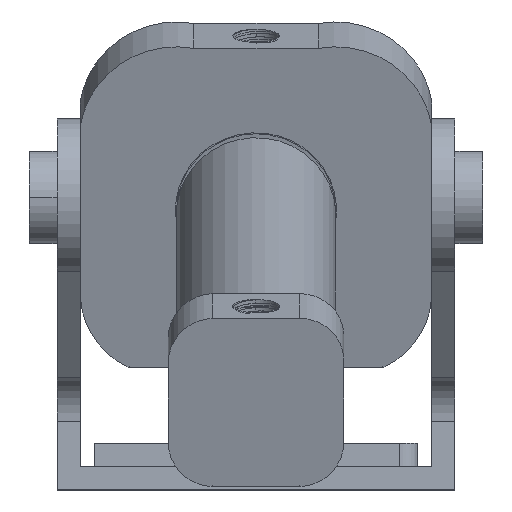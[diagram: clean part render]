
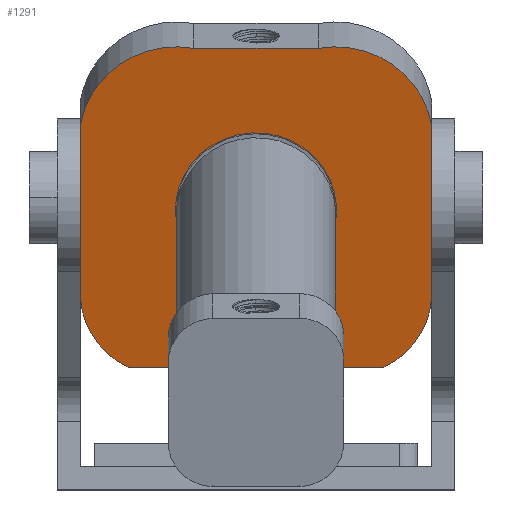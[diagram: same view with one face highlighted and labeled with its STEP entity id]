
A CAD part, top view. The second image highlights one B-rep face of the part: STEP entity #1291.
In plain terms, the highlighted planar face has unit normal (0, -0.284, 0.959) as drawn and (0, 0, -1) by its records, which use the part's own axes.
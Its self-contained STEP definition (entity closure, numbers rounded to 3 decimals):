
#301 = AXIS2_PLACEMENT_3D ( 'NONE', #17914, #5227, #20067 ) ;
#1162 = VERTEX_POINT ( 'NONE', #19834 ) ;
#1291 = ADVANCED_FACE ( 'NONE', ( #7631, #2696 ), #9213, .T. ) ;
#1774 = CARTESIAN_POINT ( 'NONE',  ( -19., 27.605, 0. ) ) ;
#2081 = AXIS2_PLACEMENT_3D ( 'NONE', #24767, #4944, #26863 ) ;
#2189 = DIRECTION ( 'NONE',  ( 0., -1., 0. ) ) ;
#2212 = ORIENTED_EDGE ( 'NONE', *, *, #27012, .T. ) ;
#2384 = VECTOR ( 'NONE', #2189, 1000. ) ;
#2439 = VECTOR ( 'NONE', #21579, 1000. ) ;
#2696 = FACE_OUTER_BOUND ( 'NONE', #6624, .T. ) ;
#3018 = VERTEX_POINT ( 'NONE', #5342 ) ;
#3376 = CIRCLE ( 'NONE', #17339, 9.312 ) ;
#3867 = EDGE_CURVE ( 'NONE', #16664, #10515, #27263, .T. ) ;
#4799 = DIRECTION ( 'NONE',  ( 0., 0., -1. ) ) ;
#4944 = DIRECTION ( 'NONE',  ( 0., 0., -1. ) ) ;
#5046 = EDGE_CURVE ( 'NONE', #18315, #16664, #3376, .T. ) ;
#5135 = VERTEX_POINT ( 'NONE', #10057 ) ;
#5227 = DIRECTION ( 'NONE',  ( 0., 0., -1. ) ) ;
#5342 = CARTESIAN_POINT ( 'NONE',  ( 13.718, 0.45, 0. ) ) ;
#5488 = VECTOR ( 'NONE', #21640, 1000. ) ;
#6335 = AXIS2_PLACEMENT_3D ( 'NONE', #11228, #26045, #13331 ) ;
#6624 = EDGE_LOOP ( 'NONE', ( #24869, #6766, #10191, #22974, #9162, #25190, #8675, #2212 ) ) ;
#6724 = EDGE_CURVE ( 'NONE', #10515, #1162, #13152, .T. ) ;
#6766 = ORIENTED_EDGE ( 'NONE', *, *, #14225, .T. ) ;
#6796 = CARTESIAN_POINT ( 'NONE',  ( 19., 0.45, 0. ) ) ;
#7194 = CARTESIAN_POINT ( 'NONE',  ( 19., 27.605, 0. ) ) ;
#7631 = FACE_BOUND ( 'NONE', #10316, .T. ) ;
#7994 = LINE ( 'NONE', #21215, #2384 ) ;
#8372 = CARTESIAN_POINT ( 'NONE',  ( 0., 18.225, 0. ) ) ;
#8660 = CIRCLE ( 'NONE', #8849, 8.59 ) ;
#8675 = ORIENTED_EDGE ( 'NONE', *, *, #12972, .T. ) ;
#8849 = AXIS2_PLACEMENT_3D ( 'NONE', #8372, #23215, #10508 ) ;
#8994 = ORIENTED_EDGE ( 'NONE', *, *, #25097, .T. ) ;
#9162 = ORIENTED_EDGE ( 'NONE', *, *, #6724, .T. ) ;
#9213 = PLANE ( 'NONE',  #2081 ) ;
#9365 = DIRECTION ( 'NONE',  ( 0., 0., -1. ) ) ;
#10057 = CARTESIAN_POINT ( 'NONE',  ( 19., 8.845, 0. ) ) ;
#10191 = ORIENTED_EDGE ( 'NONE', *, *, #5046, .T. ) ;
#10316 = EDGE_LOOP ( 'NONE', ( #8994, #16835 ) ) ;
#10508 = DIRECTION ( 'NONE',  ( -1., 0., 0. ) ) ;
#10515 = VERTEX_POINT ( 'NONE', #1774 ) ;
#10676 = CARTESIAN_POINT ( 'NONE',  ( 9.688, 8.845, 0. ) ) ;
#10786 = VERTEX_POINT ( 'NONE', #13161 ) ;
#11046 = VECTOR ( 'NONE', #17391, 1000. ) ;
#11228 = CARTESIAN_POINT ( 'NONE',  ( 0., 18.225, 0. ) ) ;
#11363 = CARTESIAN_POINT ( 'NONE',  ( -19., 18.225, 0. ) ) ;
#11514 = CARTESIAN_POINT ( 'NONE',  ( -19., 8.845, 0. ) ) ;
#12810 = DIRECTION ( 'NONE',  ( -1., 0., 0. ) ) ;
#12972 = EDGE_CURVE ( 'NONE', #13553, #22747, #25760, .T. ) ;
#13152 = CIRCLE ( 'NONE', #21826, 10.536 ) ;
#13161 = CARTESIAN_POINT ( 'NONE',  ( -8.59, 18.225, 0. ) ) ;
#13331 = DIRECTION ( 'NONE',  ( -1., 0., 0. ) ) ;
#13553 = VERTEX_POINT ( 'NONE', #19557 ) ;
#14225 = EDGE_CURVE ( 'NONE', #3018, #18315, #19366, .T. ) ;
#15607 = CIRCLE ( 'NONE', #19046, 9.312 ) ;
#16664 = VERTEX_POINT ( 'NONE', #11514 ) ;
#16743 = LINE ( 'NONE', #19501, #5488 ) ;
#16835 = ORIENTED_EDGE ( 'NONE', *, *, #26968, .T. ) ;
#17339 = AXIS2_PLACEMENT_3D ( 'NONE', #27249, #9365, #26326 ) ;
#17391 = DIRECTION ( 'NONE',  ( 0., 1., 0. ) ) ;
#17510 = CARTESIAN_POINT ( 'NONE',  ( -8.576, 26.077, 0. ) ) ;
#17914 = CARTESIAN_POINT ( 'NONE',  ( 8.576, 26.077, 0. ) ) ;
#18315 = VERTEX_POINT ( 'NONE', #24545 ) ;
#19046 = AXIS2_PLACEMENT_3D ( 'NONE', #10676, #25532, #12810 ) ;
#19210 = EDGE_CURVE ( 'NONE', #5135, #3018, #15607, .T. ) ;
#19366 = LINE ( 'NONE', #6796, #2439 ) ;
#19501 = CARTESIAN_POINT ( 'NONE',  ( 0., 36.45, 0. ) ) ;
#19557 = CARTESIAN_POINT ( 'NONE',  ( 6.73, 36.45, 0. ) ) ;
#19638 = DIRECTION ( 'NONE',  ( -1., 0., 0. ) ) ;
#19759 = CIRCLE ( 'NONE', #6335, 8.59 ) ;
#19834 = CARTESIAN_POINT ( 'NONE',  ( -6.73, 36.45, 0. ) ) ;
#20067 = DIRECTION ( 'NONE',  ( -1., 0., 0. ) ) ;
#21215 = CARTESIAN_POINT ( 'NONE',  ( 19., 18.225, 0. ) ) ;
#21579 = DIRECTION ( 'NONE',  ( -1., 0., 0. ) ) ;
#21640 = DIRECTION ( 'NONE',  ( 1., 0., 0. ) ) ;
#21826 = AXIS2_PLACEMENT_3D ( 'NONE', #17510, #4799, #19638 ) ;
#22747 = VERTEX_POINT ( 'NONE', #7194 ) ;
#22974 = ORIENTED_EDGE ( 'NONE', *, *, #3867, .T. ) ;
#23215 = DIRECTION ( 'NONE',  ( 0., 0., 1. ) ) ;
#24029 = VERTEX_POINT ( 'NONE', #24631 ) ;
#24545 = CARTESIAN_POINT ( 'NONE',  ( -13.718, 0.45, 0. ) ) ;
#24631 = CARTESIAN_POINT ( 'NONE',  ( 8.59, 18.225, 0. ) ) ;
#24767 = CARTESIAN_POINT ( 'NONE',  ( 19., 0., 0. ) ) ;
#24869 = ORIENTED_EDGE ( 'NONE', *, *, #19210, .T. ) ;
#25047 = EDGE_CURVE ( 'NONE', #1162, #13553, #16743, .T. ) ;
#25097 = EDGE_CURVE ( 'NONE', #10786, #24029, #19759, .T. ) ;
#25190 = ORIENTED_EDGE ( 'NONE', *, *, #25047, .T. ) ;
#25532 = DIRECTION ( 'NONE',  ( 0., 0., -1. ) ) ;
#25760 = CIRCLE ( 'NONE', #301, 10.536 ) ;
#26045 = DIRECTION ( 'NONE',  ( 0., 0., 1. ) ) ;
#26326 = DIRECTION ( 'NONE',  ( -1., 0., 0. ) ) ;
#26863 = DIRECTION ( 'NONE',  ( -1., 0., 0. ) ) ;
#26968 = EDGE_CURVE ( 'NONE', #24029, #10786, #8660, .T. ) ;
#27012 = EDGE_CURVE ( 'NONE', #22747, #5135, #7994, .T. ) ;
#27249 = CARTESIAN_POINT ( 'NONE',  ( -9.688, 8.845, 0. ) ) ;
#27263 = LINE ( 'NONE', #11363, #11046 ) ;
